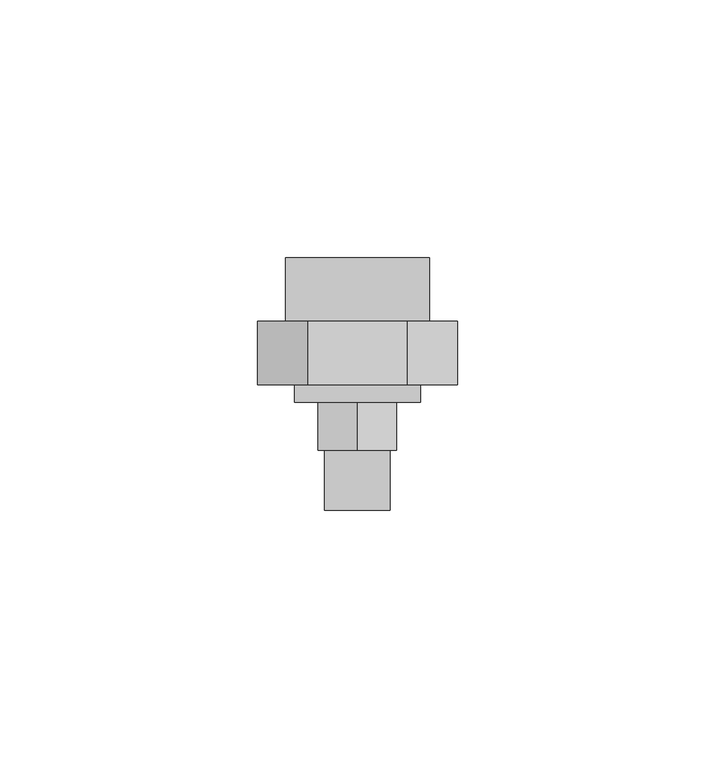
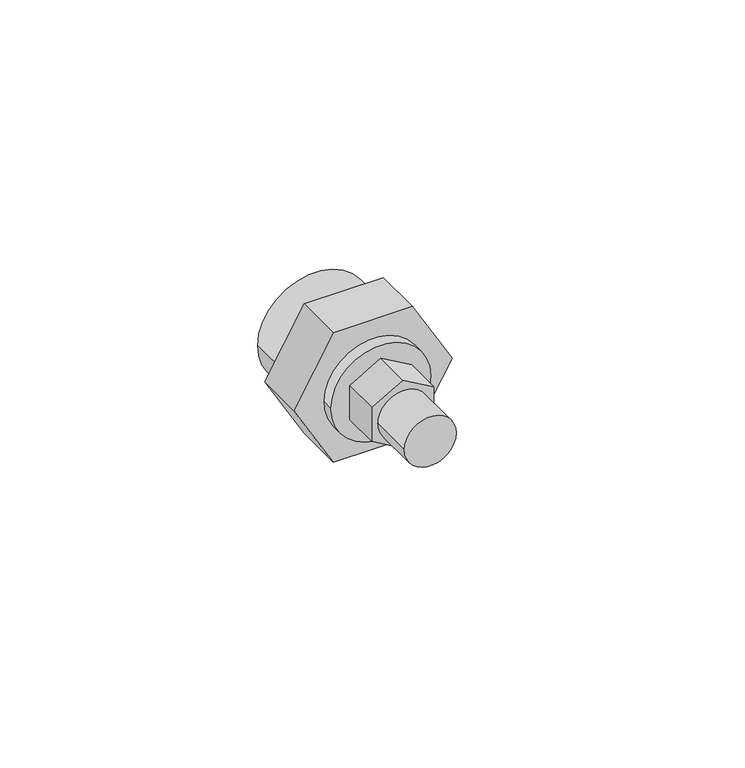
"""IFC4 building model written with IfcOpenShell, lengths in millimetres: pipe fitting geometry, EGB_VASEN_ PPR_Enlace desmontable rosca macho WXR103 : Enlace desmontable rosca macho WXR103."""

from ifc_helpers import new_model, si_unit, point, frame, origin, origin_2d, place, context, project, spatial, polyline, circle_curve, trimmed, segment, composite_curve, outline, extrude, source, transform, mapped, element, save


def pipe_fitting_d23470e3(model_context):
    return source(origin(), model_context, "Body", "SweptSolid", [
        extrude(outline(polyline([(-4.3994091, -7.62), (-8.7988181, 0.0), (-4.3994091, 7.62), (4.3994091, 7.62), (8.7988181, 0.0), (4.3994091, -7.62), (-4.3994091, -7.62)])), frame((0.0, -24.42125, 0.0), z_axis=(0.0, 1.0, 0.0), x_axis=(0.0, 0.0, 1.0)), (0.0, 0.0, 1.0), 9.3333333),
        extrude(outline(polyline([(0.0, 19.398969), (16.8, 9.6994845), (16.8, -9.6994845), (0.0, -19.398969), (-16.8, -9.6994845), (-16.8, 9.6994845), (0.0, 19.398969)])), frame((0.0, -11.7204167, 0.0), z_axis=(0.0, 1.0, 0.0), x_axis=(0.0, 0.0, 1.0)), (0.0, 0.0, 1.0), 12.3333333),
        extrude(outline(composite_curve([segment(trimmed(circle_curve(origin_2d(), 6.35), [point((0.0, -6.35))], [point((0.0, 6.35))], False, "CARTESIAN"), True, "CONTINUOUS"), segment(trimmed(circle_curve(origin_2d(), 6.35), [point((0.0, 6.35))], [point((0.0, -6.35))], False, "CARTESIAN"), True, "CONTINUOUS")], self_intersect=False)), frame((0.0, -36.05375, 0.0), z_axis=(0.0, 1.0, 0.0), x_axis=(0.0, 0.0, 1.0)), (0.0, 0.0, 1.0), 12.0),
        extrude(outline(composite_curve([segment(trimmed(circle_curve(origin_2d(), 12.21), [point((0.0, -12.21))], [point((0.0, 12.21))], False, "CARTESIAN"), True, "CONTINUOUS"), segment(trimmed(circle_curve(origin_2d(), 12.21), [point((0.0, 12.21))], [point((0.0, -12.21))], False, "CARTESIAN"), True, "CONTINUOUS")], self_intersect=False)), frame((0.0, -15.0879167, 0.0), z_axis=(0.0, 1.0, 0.0), x_axis=(0.0, 0.0, 1.0)), (0.0, 0.0, 1.0), 3.3675),
        extrude(outline(composite_curve([segment(trimmed(circle_curve(origin_2d(), 14.0), [point((0.0, -14.0))], [point((0.0, 14.0))], False, "CARTESIAN"), True, "CONTINUOUS"), segment(trimmed(circle_curve(origin_2d(), 14.0), [point((0.0, 14.0))], [point((0.0, -14.0))], False, "CARTESIAN"), True, "CONTINUOUS")], self_intersect=False), holes=[composite_curve([segment(trimmed(circle_curve(origin_2d(), 10.0), [point((0.0, -10.0))], [point((0.0, 10.0))], True, "CARTESIAN"), True, "CONTINUOUS"), segment(trimmed(circle_curve(origin_2d(), 10.0), [point((0.0, 10.0))], [point((0.0, -10.0))], True, "CARTESIAN"), True, "CONTINUOUS")], self_intersect=False)]), frame((0.0, 0.6129167, 0.0), z_axis=(0.0, 1.0, 0.0), x_axis=(0.0, 0.0, 1.0)), (0.0, 0.0, 1.0), 12.3333333),
    ])


if __name__ == "__main__":
    model = new_model("IFC4")
    model_context = context("Model", 3, world=origin())
    ifc_project = project(units=[si_unit("LENGTHUNIT", "METRE", prefix="MILLI")], contexts=[model_context])
    site = spatial("IfcSite", under=ifc_project)
    building = spatial("IfcBuilding", under=site)
    placement = place(None, origin())
    pipe_fitting_shape = pipe_fitting_d23470e3(model_context)
    element("IfcPipeFitting", 1, ObjectType="EGB_VASEN_ PPR_Enlace desmontable rosca macho WXR103 : Enlace desmontable rosca macho WXR103", at=placement, inside=building, context=model_context, shape_type="MappedRepresentation", body=[
        mapped(pipe_fitting_shape, transform((0.0, 0.0, 0.0), x_axis=(1.0, 0.0, 0.0), y_axis=(0.0, 1.0, 0.0), z_axis=(0.0, 0.0, 1.0))),
    ])
    save(model, "model.ifc")
